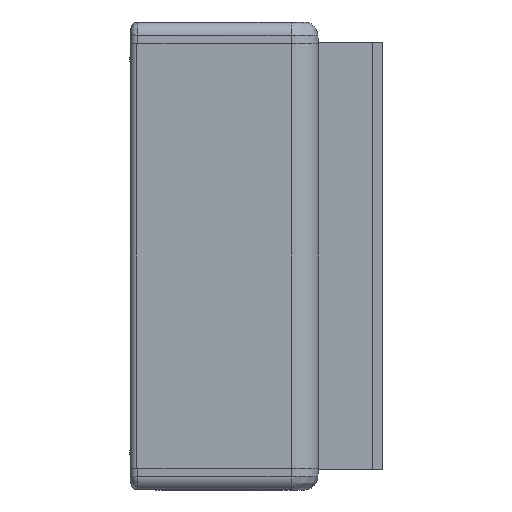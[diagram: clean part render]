
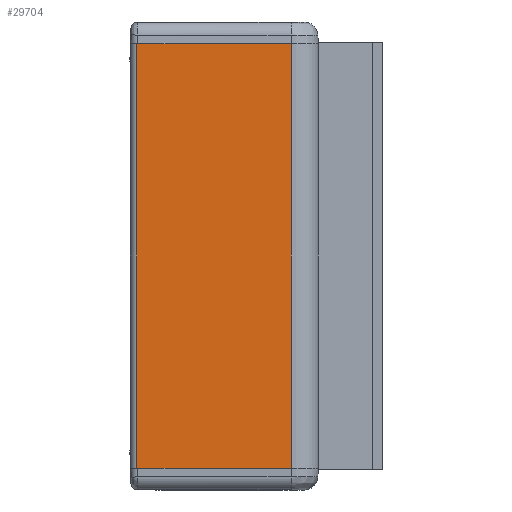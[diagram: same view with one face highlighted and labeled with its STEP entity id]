
A CAD part, left-side view. The second image highlights one B-rep face of the part: STEP entity #29704.
In plain terms, the highlighted planar face has unit normal (-1, 0, 0).
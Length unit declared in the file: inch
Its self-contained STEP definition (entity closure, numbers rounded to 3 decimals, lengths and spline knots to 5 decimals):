
#140=DIRECTION('',(0.,0.,1.));
#141=VECTOR('',#140,1.96);
#142=CARTESIAN_POINT('',(-2.5,0.40326,0.));
#143=LINE('',#142,#141);
#9674=DIRECTION('',(0.,1.,0.));
#9675=VECTOR('',#9674,0.71151);
#9676=CARTESIAN_POINT('',(-2.5,-0.30825,1.96));
#9677=LINE('',#9676,#9675);
#9678=DIRECTION('',(0.,-1.,0.));
#9679=VECTOR('',#9678,0.71151);
#9680=CARTESIAN_POINT('',(-2.5,0.40326,0.));
#9681=LINE('',#9680,#9679);
#9704=DIRECTION('',(0.,0.,1.));
#9705=VECTOR('',#9704,1.96);
#9706=CARTESIAN_POINT('',(-2.5,-0.30825,0.));
#9707=LINE('',#9706,#9705);
#14037=CARTESIAN_POINT('',(-2.5,0.40326,0.));
#14038=CARTESIAN_POINT('',(-2.5,-0.30825,0.));
#14039=VERTEX_POINT('',#14037);
#14040=VERTEX_POINT('',#14038);
#15608=CARTESIAN_POINT('',(-2.5,-0.30825,1.96));
#15609=CARTESIAN_POINT('',(-2.5,0.40326,1.96));
#15610=VERTEX_POINT('',#15608);
#15611=VERTEX_POINT('',#15609);
#29691=CARTESIAN_POINT('',(-2.5,-0.43325,1.96));
#29692=DIRECTION('',(-1.,0.,0.));
#29693=DIRECTION('',(0.,1.,0.));
#29694=AXIS2_PLACEMENT_3D('',#29691,#29692,#29693);
#29695=PLANE('',#29694);
#29697=ORIENTED_EDGE('',*,*,#29696,.F.);
#29699=ORIENTED_EDGE('',*,*,#29698,.F.);
#29700=ORIENTED_EDGE('',*,*,#29681,.F.);
#29701=ORIENTED_EDGE('',*,*,#16344,.T.);
#29702=EDGE_LOOP('',(#29697,#29699,#29700,#29701));
#29703=FACE_OUTER_BOUND('',#29702,.F.);
#29704=ADVANCED_FACE('',(#29703),#29695,.T.);
#16344=EDGE_CURVE('',#14039,#15611,#143,.T.);
#29681=EDGE_CURVE('',#14039,#14040,#9681,.T.);
#29696=EDGE_CURVE('',#15610,#15611,#9677,.T.);
#29698=EDGE_CURVE('',#14040,#15610,#9707,.T.);
